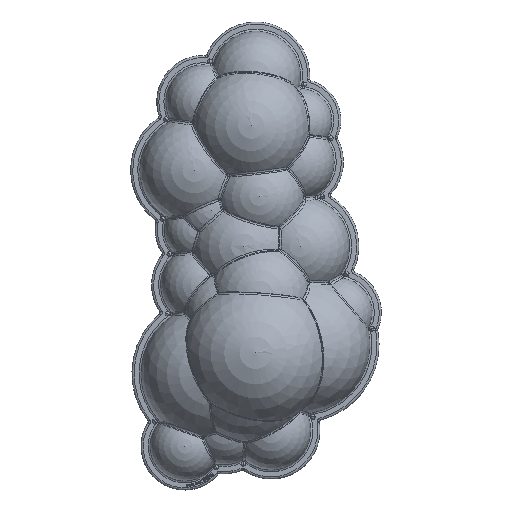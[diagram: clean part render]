
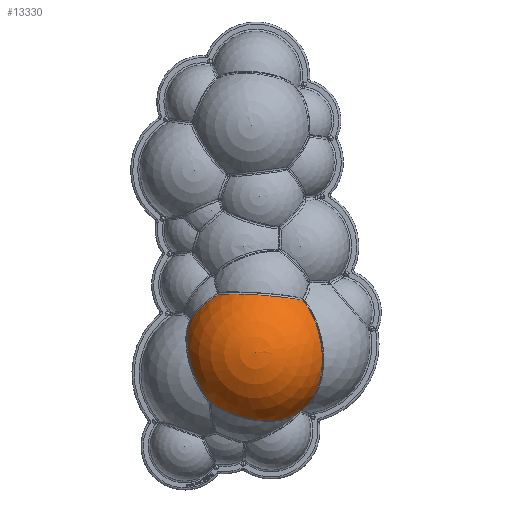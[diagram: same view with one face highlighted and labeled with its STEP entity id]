
A CAD part, front view. The second image highlights one B-rep face of the part: STEP entity #13330.
In plain terms, the highlighted spherical face has radius 161.068 mm.
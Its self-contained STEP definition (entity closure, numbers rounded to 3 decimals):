
#639 = DIRECTION ( 'NONE',  ( 0.792, -0.611, 0.003 ) ) ;
#749 = VERTEX_POINT ( 'NONE', #47500 ) ;
#1510 = DIRECTION ( 'NONE',  ( 0., -1., 0. ) ) ;
#1854 = DIRECTION ( 'NONE',  ( 0.587, -0.809, 0. ) ) ;
#2005 = DIRECTION ( 'NONE',  ( 0.969, 0., -0.248 ) ) ;
#4755 = CARTESIAN_POINT ( 'NONE',  ( -37.762, -34.062, 112.109 ) ) ;
#5952 = DIRECTION ( 'NONE',  ( -0.793, -0.576, -0.199 ) ) ;
#6499 = CARTESIAN_POINT ( 'NONE',  ( 55.706, -33.61, 174.368 ) ) ;
#7028 = EDGE_CURVE ( 'NONE', #749, #38351, #34232, .T. ) ;
#8274 = CARTESIAN_POINT ( 'NONE',  ( 135.89, -141.098, 202.728 ) ) ;
#9866 = AXIS2_PLACEMENT_3D ( 'NONE', #12266, #35270, #15619 ) ;
#12266 = CARTESIAN_POINT ( 'NONE',  ( 63.942, -34.641, 2.04 ) ) ;
#13330 = ADVANCED_FACE ( 'NONE', ( #24859 ), #25446, .T. ) ;
#14871 = AXIS2_PLACEMENT_3D ( 'NONE', #17034, #44651, #45139 ) ;
#15573 = CARTESIAN_POINT ( 'NONE',  ( 145.882, -89.569, 14.279 ) ) ;
#15619 = DIRECTION ( 'NONE',  ( 0.925, 0., 0.38 ) ) ;
#16665 = ORIENTED_EDGE ( 'NONE', *, *, #25649, .T. ) ;
#17034 = CARTESIAN_POINT ( 'NONE',  ( 18.664, -77.609, 112.339 ) ) ;
#17885 = VERTEX_POINT ( 'NONE', #15573 ) ;
#18446 = AXIS2_PLACEMENT_3D ( 'NONE', #6499, #50109, #43151 ) ;
#19253 = ORIENTED_EDGE ( 'NONE', *, *, #33048, .T. ) ;
#19630 = EDGE_CURVE ( 'NONE', #17885, #25139, #41678, .T. ) ;
#19970 = CARTESIAN_POINT ( 'NONE',  ( 76.864, -128.158, -29.085 ) ) ;
#20677 = ORIENTED_EDGE ( 'NONE', *, *, #32962, .T. ) ;
#22842 = ORIENTED_EDGE ( 'NONE', *, *, #7028, .F. ) ;
#23468 = CARTESIAN_POINT ( 'NONE',  ( -39.608, -77.609, 262.496 ) ) ;
#24670 = AXIS2_PLACEMENT_3D ( 'NONE', #34303, #1510, #45037 ) ;
#24859 = FACE_OUTER_BOUND ( 'NONE', #47329, .T. ) ;
#25139 = VERTEX_POINT ( 'NONE', #8274 ) ;
#25320 = DIRECTION ( 'NONE',  ( 0.246, -0.1, 0.964 ) ) ;
#25446 = SPHERICAL_SURFACE ( 'NONE', #24670, 161.068 ) ;
#25649 = EDGE_CURVE ( 'NONE', #33313, #35392, #40617, .T. ) ;
#27533 = AXIS2_PLACEMENT_3D ( 'NONE', #29616, #5952, #1854 ) ;
#29616 = CARTESIAN_POINT ( 'NONE',  ( 77.697, -34.757, 127.186 ) ) ;
#31911 = ORIENTED_EDGE ( 'NONE', *, *, #33934, .T. ) ;
#32385 = DIRECTION ( 'NONE',  ( 0.611, 0.792, 0. ) ) ;
#32962 = EDGE_CURVE ( 'NONE', #25139, #38351, #50433, .T. ) ;
#33048 = EDGE_CURVE ( 'NONE', #749, #33313, #46083, .T. ) ;
#33089 = CARTESIAN_POINT ( 'NONE',  ( -10.144, -65.923, -0.401 ) ) ;
#33313 = VERTEX_POINT ( 'NONE', #37432 ) ;
#33934 = EDGE_CURVE ( 'NONE', #35392, #17885, #49154, .T. ) ;
#34232 = CIRCLE ( 'NONE', #14871, 161.068 ) ;
#34303 = CARTESIAN_POINT ( 'NONE',  ( 18.664, -77.609, 112.339 ) ) ;
#35270 = DIRECTION ( 'NONE',  ( -0.357, -0.339, 0.87 ) ) ;
#35392 = VERTEX_POINT ( 'NONE', #19970 ) ;
#37432 = CARTESIAN_POINT ( 'NONE',  ( -104.462, -120.987, 17.992 ) ) ;
#38351 = VERTEX_POINT ( 'NONE', #23468 ) ;
#38650 = AXIS2_PLACEMENT_3D ( 'NONE', #4755, #639, #32385 ) ;
#40617 = CIRCLE ( 'NONE', #45287, 110.754 ) ;
#41678 = CIRCLE ( 'NONE', #27533, 142.834 ) ;
#43151 = DIRECTION ( 'NONE',  ( 0., 0.816, -0.579 ) ) ;
#44651 = DIRECTION ( 'NONE',  ( 0., 1., 0. ) ) ;
#45037 = DIRECTION ( 'NONE',  ( -1., 0., 0. ) ) ;
#45139 = DIRECTION ( 'NONE',  ( 0., 0., 1. ) ) ;
#45287 = AXIS2_PLACEMENT_3D ( 'NONE', #33089, #25320, #2005 ) ;
#46083 = CIRCLE ( 'NONE', #38650, 144.44 ) ;
#47329 = EDGE_LOOP ( 'NONE', ( #22842, #19253, #16665, #31911, #48993, #20677 ) ) ;
#47500 = CARTESIAN_POINT ( 'NONE',  ( -71.912, -77.609, 245.526 ) ) ;
#48993 = ORIENTED_EDGE ( 'NONE', *, *, #19630, .T. ) ;
#49154 = CIRCLE ( 'NONE', #9866, 99.403 ) ;
#50109 = DIRECTION ( 'NONE',  ( -0.438, -0.52, -0.733 ) ) ;
#50433 = CIRCLE ( 'NONE', #18446, 137.067 ) ;
